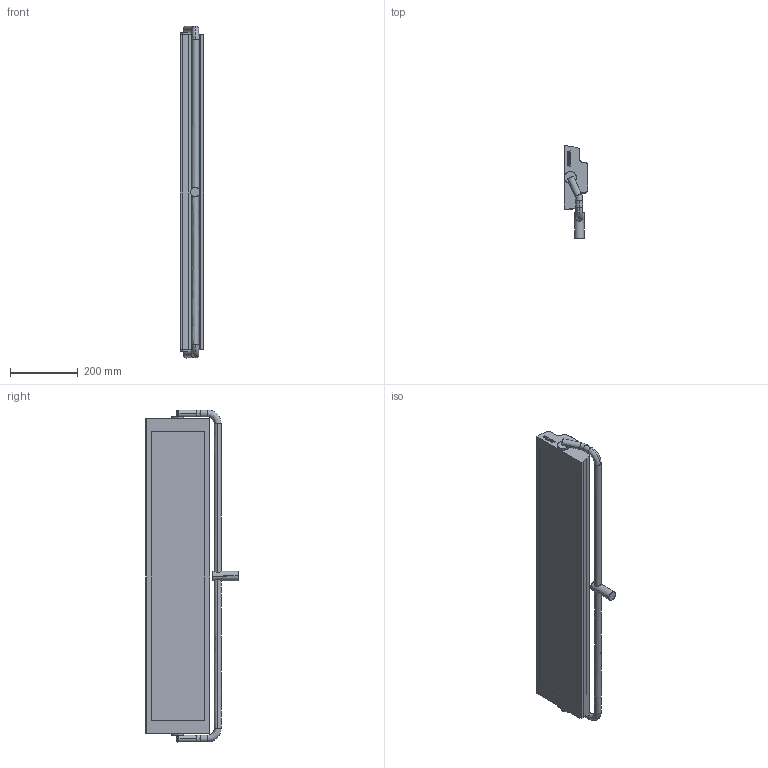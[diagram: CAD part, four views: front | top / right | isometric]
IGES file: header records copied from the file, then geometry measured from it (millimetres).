
Start section: SolidWorks IGES file using analytic representation for surfaces
Global section: file name: C:\Users\Eddy\Desktop\MINI 3 ST.IGS; native system: SolidWorks 2023; preprocessor: SolidWorks 2023; author: Eddy; date: 240715.150102; units: millimetre
Bounding box: 70.41 x 271.29 x 977 mm (x, y, z)
Surface area: 549216.4 mm2 (no closed solid volume)
Topology: 0 solids, 0 shells, 292 faces, 3782 edges, 3782 vertices
Faces by surface type: bspline 262, revolution 30
